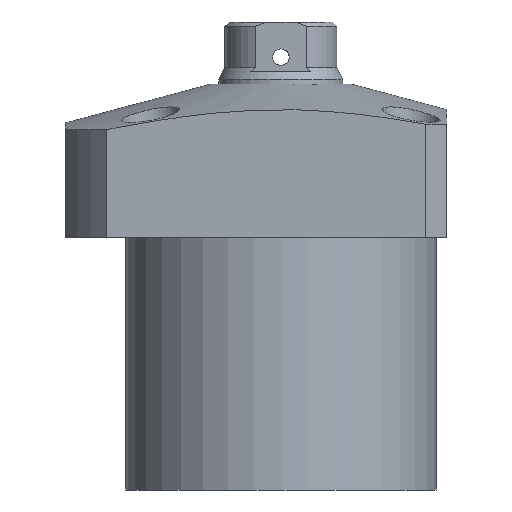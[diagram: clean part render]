
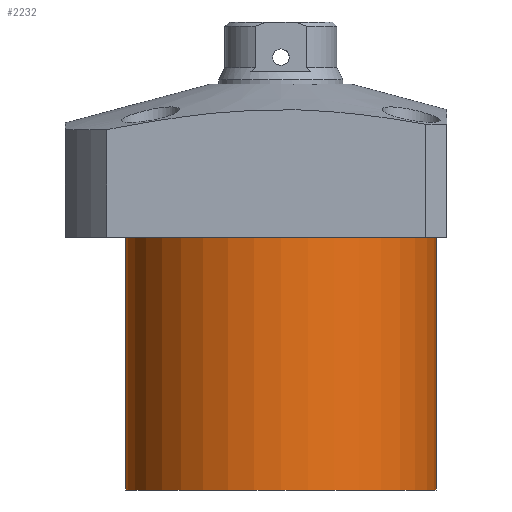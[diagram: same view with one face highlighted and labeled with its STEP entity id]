
A CAD part, front view. The second image highlights one B-rep face of the part: STEP entity #2232.
In plain terms, the highlighted cylindrical face has radius 37.5 mm (diameter 75 mm), a partial arc.
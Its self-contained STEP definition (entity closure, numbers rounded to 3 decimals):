
#24 = CARTESIAN_POINT ( 'NONE',  ( 37.5, 0., -79.5 ) ) ;
#44 = DIRECTION ( 'NONE',  ( 1., 0., 0. ) ) ;
#53 = DIRECTION ( 'NONE',  ( 0., 0., -1. ) ) ;
#144 = CARTESIAN_POINT ( 'NONE',  ( 0., 0., -79.5 ) ) ;
#227 = CARTESIAN_POINT ( 'NONE',  ( -37.5, 0., -79.5 ) ) ;
#249 = AXIS2_PLACEMENT_3D ( 'NONE', #144, #1657, #2287 ) ;
#256 = AXIS2_PLACEMENT_3D ( 'NONE', #2632, #1793, #44 ) ;
#356 = CIRCLE ( 'NONE', #256, 37.5 ) ;
#393 = VERTEX_POINT ( 'NONE', #1597 ) ;
#840 = EDGE_LOOP ( 'NONE', ( #2456, #858, #2458, #2628 ) ) ;
#858 = ORIENTED_EDGE ( 'NONE', *, *, #1490, .F. ) ;
#911 = CARTESIAN_POINT ( 'NONE',  ( -37.5, 0., -18.5 ) ) ;
#1058 = VECTOR ( 'NONE', #1290, 1000. ) ;
#1191 = EDGE_CURVE ( 'NONE', #393, #1949, #356, .T. ) ;
#1196 = CIRCLE ( 'NONE', #2465, 37.5 ) ;
#1242 = VERTEX_POINT ( 'NONE', #2432 ) ;
#1290 = DIRECTION ( 'NONE',  ( 0., 0., 1. ) ) ;
#1392 = CARTESIAN_POINT ( 'NONE',  ( 0., 0., -79.5 ) ) ;
#1430 = LINE ( 'NONE', #227, #2010 ) ;
#1490 = EDGE_CURVE ( 'NONE', #1511, #1242, #1196, .T. ) ;
#1497 = FACE_OUTER_BOUND ( 'NONE', #840, .T. ) ;
#1511 = VERTEX_POINT ( 'NONE', #2461 ) ;
#1597 = CARTESIAN_POINT ( 'NONE',  ( 37.5, 0., -18.5 ) ) ;
#1657 = DIRECTION ( 'NONE',  ( 0., 0., 1. ) ) ;
#1793 = DIRECTION ( 'NONE',  ( 0., 0., -1. ) ) ;
#1821 = DIRECTION ( 'NONE',  ( -1., 0., 0. ) ) ;
#1847 = LINE ( 'NONE', #24, #1058 ) ;
#1949 = VERTEX_POINT ( 'NONE', #911 ) ;
#2010 = VECTOR ( 'NONE', #2407, 1000. ) ;
#2232 = ADVANCED_FACE ( 'NONE', ( #1497 ), #2777, .T. ) ;
#2287 = DIRECTION ( 'NONE',  ( 1., 0., 0. ) ) ;
#2407 = DIRECTION ( 'NONE',  ( 0., 0., 1. ) ) ;
#2432 = CARTESIAN_POINT ( 'NONE',  ( -37.5, 0., -79.5 ) ) ;
#2456 = ORIENTED_EDGE ( 'NONE', *, *, #2478, .F. ) ;
#2458 = ORIENTED_EDGE ( 'NONE', *, *, #2496, .T. ) ;
#2461 = CARTESIAN_POINT ( 'NONE',  ( 37.5, 0., -79.5 ) ) ;
#2465 = AXIS2_PLACEMENT_3D ( 'NONE', #1392, #53, #1821 ) ;
#2478 = EDGE_CURVE ( 'NONE', #1242, #1949, #1430, .T. ) ;
#2496 = EDGE_CURVE ( 'NONE', #1511, #393, #1847, .T. ) ;
#2628 = ORIENTED_EDGE ( 'NONE', *, *, #1191, .T. ) ;
#2632 = CARTESIAN_POINT ( 'NONE',  ( 0., 0., -18.5 ) ) ;
#2777 = CYLINDRICAL_SURFACE ( 'NONE', #249, 37.5 ) ;
